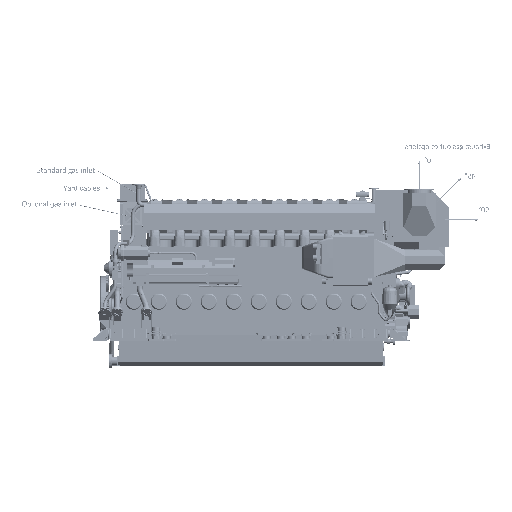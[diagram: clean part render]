
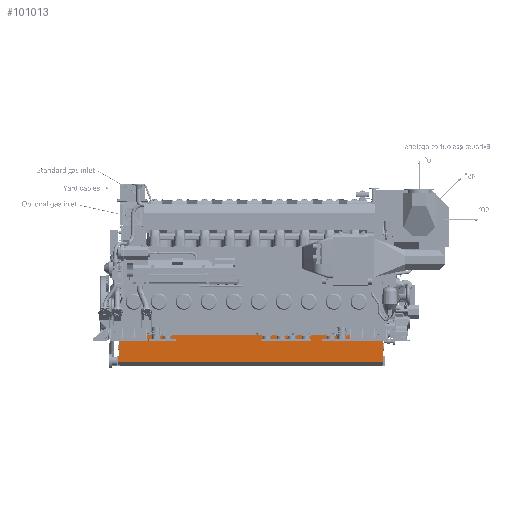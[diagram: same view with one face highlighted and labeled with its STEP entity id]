
A CAD part, front view. The second image highlights one B-rep face of the part: STEP entity #101013.
In plain terms, the highlighted planar face has unit normal (0, -0.999, -0.052).
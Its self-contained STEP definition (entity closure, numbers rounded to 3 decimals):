
#28829=LINE('',#456576,#53843);
#28850=LINE('',#456644,#53864);
#28868=LINE('',#456689,#53882);
#28886=LINE('',#456750,#53900);
#28895=LINE('',#456766,#53909);
#28896=LINE('',#456767,#53910);
#53843=VECTOR('',#367696,1.);
#53864=VECTOR('',#367743,1.);
#53882=VECTOR('',#367771,1.);
#53900=VECTOR('',#367817,1.);
#53909=VECTOR('',#367832,1.);
#53910=VECTOR('',#367833,1.);
#79456=FACE_OUTER_BOUND('',#137183,.T.);
#101013=ADVANCED_FACE('',(#79456),#119993,.T.);
#119993=PLANE('',#337613);
#137183=EDGE_LOOP('',(#161865,#161866,#161867,#161868,#161869,#161870));
#161865=ORIENTED_EDGE('',*,*,#282126,.F.);
#161866=ORIENTED_EDGE('',*,*,#282221,.F.);
#161867=ORIENTED_EDGE('',*,*,#282159,.T.);
#161868=ORIENTED_EDGE('',*,*,#282212,.T.);
#161869=ORIENTED_EDGE('',*,*,#282181,.F.);
#161870=ORIENTED_EDGE('',*,*,#282222,.F.);
#251439=VERTEX_POINT('',#456577);
#251440=VERTEX_POINT('',#456578);
#251472=VERTEX_POINT('',#456643);
#251473=VERTEX_POINT('',#456645);
#251483=VERTEX_POINT('',#456667);
#251494=VERTEX_POINT('',#456688);
#282126=EDGE_CURVE('',#251439,#251440,#28829,.T.);
#282159=EDGE_CURVE('',#251473,#251472,#28850,.T.);
#282181=EDGE_CURVE('',#251494,#251483,#28868,.T.);
#282212=EDGE_CURVE('',#251472,#251483,#28886,.T.);
#282221=EDGE_CURVE('',#251473,#251439,#28895,.T.);
#282222=EDGE_CURVE('',#251440,#251494,#28896,.T.);
#337613=AXIS2_PLACEMENT_3D('',#456768,#367834,#367835);
#367696=DIRECTION('',(0.,-0.052,0.999));
#367743=DIRECTION('',(0.,0.052,-0.999));
#367771=DIRECTION('',(0.,0.052,-0.999));
#367817=DIRECTION('',(1.,0.,0.));
#367832=DIRECTION('',(1.,0.,0.));
#367833=DIRECTION('',(1.,0.,0.));
#367834=DIRECTION('',(0.,-0.999,-0.052));
#367835=DIRECTION('',(0.,0.052,-0.999));
#456576=CARTESIAN_POINT('',(-5180.,-438.25,-545.));
#456577=CARTESIAN_POINT('',(-5180.,-417.179,-950.));
#456578=CARTESIAN_POINT('',(-5180.,-438.25,-545.));
#456643=CARTESIAN_POINT('',(-5200.,-410.5,-1078.395));
#456644=CARTESIAN_POINT('',(-5200.,-438.25,-545.));
#456645=CARTESIAN_POINT('',(-5200.,-417.179,-950.));
#456667=CARTESIAN_POINT('',(0.,-410.5,-1078.395));
#456688=CARTESIAN_POINT('',(0.,-438.25,-545.));
#456689=CARTESIAN_POINT('',(0.,-438.25,-545.));
#456750=CARTESIAN_POINT('',(-5200.,-410.5,-1078.395));
#456766=CARTESIAN_POINT('',(-5200.,-417.179,-950.));
#456767=CARTESIAN_POINT('',(-5200.,-438.25,-545.));
#456768=CARTESIAN_POINT('',(-5200.,-438.25,-545.));
